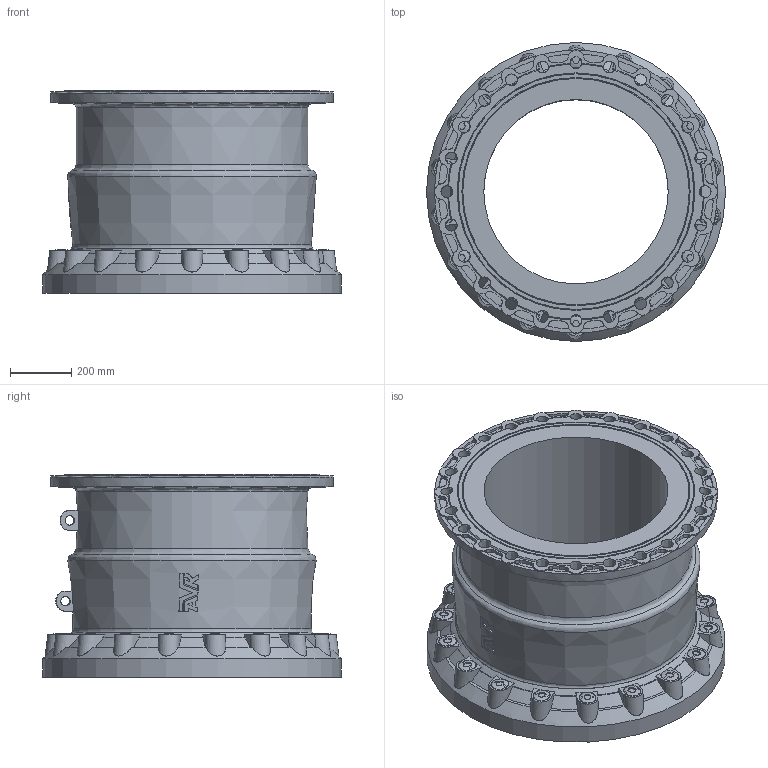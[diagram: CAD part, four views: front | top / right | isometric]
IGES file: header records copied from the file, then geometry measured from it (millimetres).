
Start section: SolidWorks IGES file using analytic representation for surfaces
Global section: file name: \\avksan2\techshare\PBM outline export from Enovia\O_633_00_DN700_X0X_REV01.igs; native system: SolidWorks 2019; preprocessor: SolidWorks 2019; author: pbm; date: 200925.081122; units: millimetre
Bounding box: 973 x 973 x 661.95 mm (x, y, z)
Surface area: 4342237.2 mm2 (no closed solid volume)
Topology: 0 solids, 1 shells, 858 faces, 4793 edges, 4741 vertices
Faces by surface type: revolution 553, bspline 305
